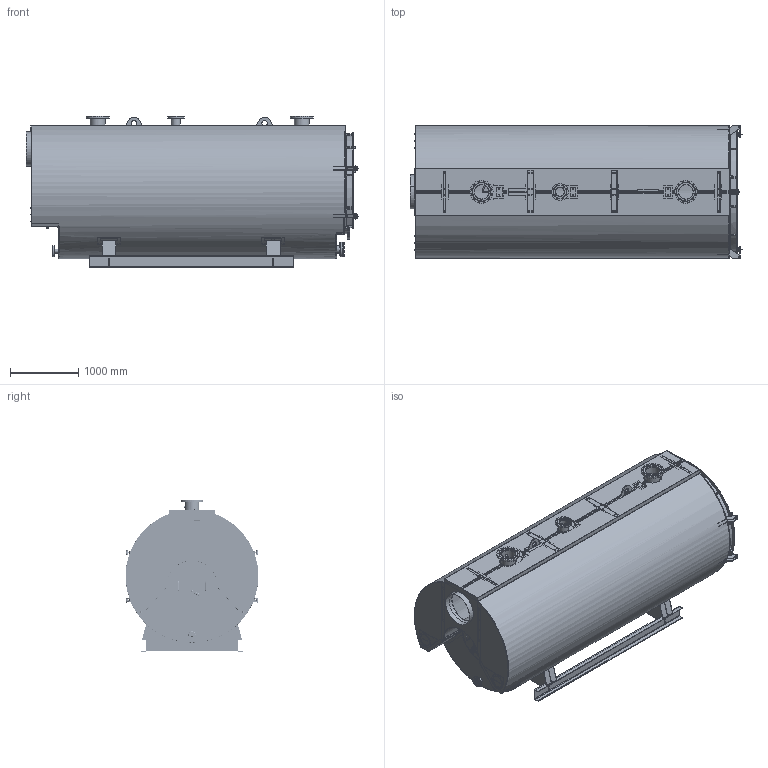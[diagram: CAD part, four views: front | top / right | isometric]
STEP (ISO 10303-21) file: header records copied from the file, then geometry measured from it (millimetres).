
FILE_DESCRIPTION(('STEP AP242'), '1');
FILE_NAME('ÊÎÒ¨Ë âîäîãðåéíûé ñòàëüíîé 3-õ õîäîâîé (3,5 ÌÂò)', '2023-09-06T11:17:45', (''), (''), 'ASCON STEP Converter 1.6', 'ASCON Math Kernel', '');
FILE_SCHEMA(('AP242_MANAGED_MODEL_BASED_3D_ENGINEERING_MIM_LF { 1 0 10303 442 1 1 4 }'));
Length unit declared in the file: millimetre
Products named in the file (1): STEP
Bounding box: 4876 x 1951.1 x 2227 mm (x, y, z)
Volume: 260981179.5 mm3; surface area: 102799876.6 mm2
Topology: 139 solids, 139 shells, 5507 faces, 12927 edges, 8052 vertices
Faces by surface type: plane 3137, cylinder 1420, cone 591, bspline 242, torus 113, sphere 4
Full cylindrical faces by diameter (mm): 2 x2, 2.45 x16, 4 x20, 4.1 x6, 5.5 x38, 6.5 x4, 6.647 x8, 7 x30, 7.1 x38, 8 x16, 8.376 x6, 8.4 x8, 10 x21, 10.106 x16, 10.3 x8, 10.5 x7, 11 x50, 12 x58, 13 x17, 13.835 x8, 14 x22, 14.5 x1, 15 x39, 16 x28, 17 x24, 18 x32, 20 x23, 20.4 x1, 20.955 x1, 21.2 x2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
Entity records: 220637 total; most frequent: CARTESIAN_POINT 101336, DIRECTION 23450, ORIENTED_EDGE 23236, EDGE_CURVE 11618, AXIS2_PLACEMENT_3D 8844, VERTEX_POINT 7948, EDGE_LOOP 7597, LINE 5762
